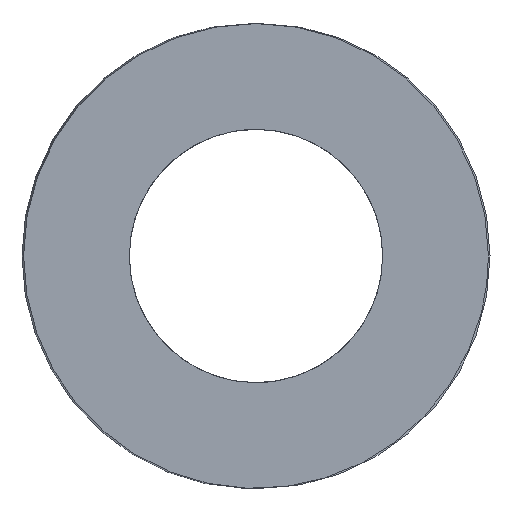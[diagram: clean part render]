
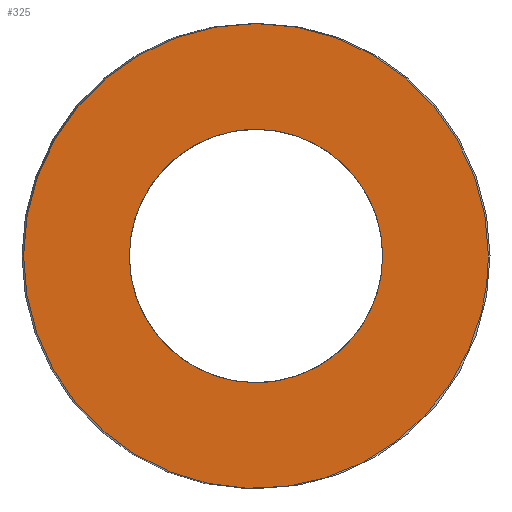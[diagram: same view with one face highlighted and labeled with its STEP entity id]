
A CAD part, left-side view. The second image highlights one B-rep face of the part: STEP entity #325.
In plain terms, the highlighted planar face has unit normal (-1, 0, 0).
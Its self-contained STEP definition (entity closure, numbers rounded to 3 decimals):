
#63=CARTESIAN_POINT('Vertex',(0.,24.4,0.)) ;
#89=CARTESIAN_POINT('Vertex',(0.,-24.4,0.)) ;
#93=CARTESIAN_POINT('Control Point',(0.,24.4,0.)) ;
#94=CARTESIAN_POINT('Control Point',(0.,24.4,-3.833)) ;
#95=CARTESIAN_POINT('Control Point',(0.,23.647,-7.665)) ;
#96=CARTESIAN_POINT('Control Point',(0.,22.142,-11.301)) ;
#97=CARTESIAN_POINT('Control Point',(0.,17.786,-17.786)) ;
#98=CARTESIAN_POINT('Control Point',(0.,11.301,-22.142)) ;
#99=CARTESIAN_POINT('Control Point',(0.,7.665,-23.647)) ;
#100=CARTESIAN_POINT('Control Point',(0.,0.,-25.153)) ;
#101=CARTESIAN_POINT('Control Point',(0.,-7.665,-23.647)) ;
#102=CARTESIAN_POINT('Control Point',(0.,-11.301,-22.142)) ;
#103=CARTESIAN_POINT('Control Point',(0.,-17.786,-17.786)) ;
#104=CARTESIAN_POINT('Control Point',(0.,-22.142,-11.301)) ;
#105=CARTESIAN_POINT('Control Point',(0.,-23.647,-7.665)) ;
#106=CARTESIAN_POINT('Control Point',(0.,-24.4,-3.833)) ;
#107=CARTESIAN_POINT('Control Point',(0.,-24.4,0.)) ;
#121=CARTESIAN_POINT('Axis2P3D Location',(0.,0.,0.)) ;
#256=CARTESIAN_POINT('Axis2P3D Location',(0.,12.2,0.)) ;
#266=CARTESIAN_POINT('Control Point',(0.,0.,-13.3)) ;
#267=CARTESIAN_POINT('Control Point',(0.,1.251,-13.3)) ;
#268=CARTESIAN_POINT('Control Point',(0.,2.501,-13.153)) ;
#269=CARTESIAN_POINT('Control Point',(0.,3.729,-12.859)) ;
#270=CARTESIAN_POINT('Control Point',(0.,6.092,-11.988)) ;
#271=CARTESIAN_POINT('Control Point',(0.,8.189,-10.593)) ;
#272=CARTESIAN_POINT('Control Point',(0.,9.15,-9.774)) ;
#273=CARTESIAN_POINT('Control Point',(0.,10.862,-7.927)) ;
#274=CARTESIAN_POINT('Control Point',(0.,12.099,-5.734)) ;
#275=CARTESIAN_POINT('Control Point',(0.,12.585,-4.569)) ;
#276=CARTESIAN_POINT('Control Point',(0.,13.275,-2.146)) ;
#277=CARTESIAN_POINT('Control Point',(0.,13.384,0.37)) ;
#278=CARTESIAN_POINT('Control Point',(0.,13.289,1.628)) ;
#279=CARTESIAN_POINT('Control Point',(0.,12.807,4.1)) ;
#280=CARTESIAN_POINT('Control Point',(0.,11.764,6.393)) ;
#281=CARTESIAN_POINT('Control Point',(0.,11.11,7.472)) ;
#282=CARTESIAN_POINT('Control Point',(0.,9.56,9.457)) ;
#283=CARTESIAN_POINT('Control Point',(0.,7.591,11.029)) ;
#284=CARTESIAN_POINT('Control Point',(0.,6.519,11.694)) ;
#285=CARTESIAN_POINT('Control Point',(0.,4.601,12.592)) ;
#286=CARTESIAN_POINT('Control Point',(0.,2.551,13.095)) ;
#287=CARTESIAN_POINT('Control Point',(0.,1.706,13.232)) ;
#288=CARTESIAN_POINT('Control Point',(0.,0.853,13.3)) ;
#289=CARTESIAN_POINT('Control Point',(0.,0.,13.3)) ;
#290=CARTESIAN_POINT('Vertex',(0.,0.,-13.3)) ;
#292=CARTESIAN_POINT('Vertex',(0.,0.,13.3)) ;
#296=CARTESIAN_POINT('Control Point',(0.,0.,13.3)) ;
#297=CARTESIAN_POINT('Control Point',(0.,-1.251,13.3)) ;
#298=CARTESIAN_POINT('Control Point',(0.,-2.501,13.153)) ;
#299=CARTESIAN_POINT('Control Point',(0.,-3.729,12.859)) ;
#300=CARTESIAN_POINT('Control Point',(0.,-6.092,11.988)) ;
#301=CARTESIAN_POINT('Control Point',(0.,-8.189,10.593)) ;
#302=CARTESIAN_POINT('Control Point',(0.,-9.15,9.774)) ;
#303=CARTESIAN_POINT('Control Point',(0.,-10.862,7.927)) ;
#304=CARTESIAN_POINT('Control Point',(0.,-12.099,5.734)) ;
#305=CARTESIAN_POINT('Control Point',(0.,-12.585,4.569)) ;
#306=CARTESIAN_POINT('Control Point',(0.,-13.275,2.146)) ;
#307=CARTESIAN_POINT('Control Point',(0.,-13.384,-0.37)) ;
#308=CARTESIAN_POINT('Control Point',(0.,-13.289,-1.628)) ;
#309=CARTESIAN_POINT('Control Point',(0.,-12.807,-4.1)) ;
#310=CARTESIAN_POINT('Control Point',(0.,-11.764,-6.393)) ;
#311=CARTESIAN_POINT('Control Point',(0.,-11.11,-7.472)) ;
#312=CARTESIAN_POINT('Control Point',(0.,-9.56,-9.457)) ;
#313=CARTESIAN_POINT('Control Point',(0.,-7.591,-11.029)) ;
#314=CARTESIAN_POINT('Control Point',(0.,-6.519,-11.694)) ;
#315=CARTESIAN_POINT('Control Point',(0.,-4.601,-12.592)) ;
#316=CARTESIAN_POINT('Control Point',(0.,-2.551,-13.095)) ;
#317=CARTESIAN_POINT('Control Point',(0.,-1.706,-13.232)) ;
#318=CARTESIAN_POINT('Control Point',(0.,-0.853,-13.3)) ;
#319=CARTESIAN_POINT('Control Point',(0.,0.,-13.3)) ;
#122=DIRECTION('Axis2P3D Direction',(1.,-0.,0.)) ;
#257=DIRECTION('Axis2P3D Direction',(-1.,0.,0.)) ;
#258=DIRECTION('Axis2P3D XDirection',(0.,1.,0.)) ;
#123=AXIS2_PLACEMENT_3D('Circle Axis2P3D',#121,#122,$) ;
#259=AXIS2_PLACEMENT_3D('Plane Axis2P3D',#256,#257,#258) ;
#262=ORIENTED_EDGE('',*,*,#108,.T.) ;
#263=ORIENTED_EDGE('',*,*,#125,.T.) ;
#322=ORIENTED_EDGE('',*,*,#294,.T.) ;
#323=ORIENTED_EDGE('',*,*,#320,.T.) ;
#324=FACE_BOUND('',#321,.T.) ;
#325=ADVANCED_FACE('392-B50-076',(#264,#324),#260,.T.) ;
#92=B_SPLINE_CURVE_WITH_KNOTS('',5,(#93,#94,#95,#96,#97,#98,#99,#100,#101,#102,#103,#104,#105,#106,#107),.UNSPECIFIED.,.F.,.U.,(6,3,3,3,6),(-38.327,-19.164,0.,19.164,38.327),.UNSPECIFIED.) ;
#265=B_SPLINE_CURVE_WITH_KNOTS('',5,(#266,#267,#268,#269,#270,#271,#272,#273,#274,#275,#276,#277,#278,#279,#280,#281,#282,#283,#284,#285,#286,#287,#288,#289),.UNSPECIFIED.,.F.,.U.,(6,3,3,3,3,3,3,6),(0.,8.843,17.686,26.53,35.373,44.216,53.059,59.09),.UNSPECIFIED.) ;
#295=B_SPLINE_CURVE_WITH_KNOTS('',5,(#296,#297,#298,#299,#300,#301,#302,#303,#304,#305,#306,#307,#308,#309,#310,#311,#312,#313,#314,#315,#316,#317,#318,#319),.UNSPECIFIED.,.F.,.U.,(6,3,3,3,3,3,3,6),(0.,8.843,17.686,26.53,35.373,44.216,53.059,59.09),.UNSPECIFIED.) ;
#124=CIRCLE('generated circle',#123,24.4) ;
#108=EDGE_CURVE('',#64,#90,#92,.T.) ;
#125=EDGE_CURVE('',#90,#64,#124,.F.) ;
#294=EDGE_CURVE('',#291,#293,#265,.T.) ;
#320=EDGE_CURVE('',#293,#291,#295,.T.) ;
#261=EDGE_LOOP('',(#262,#263)) ;
#321=EDGE_LOOP('',(#322,#323)) ;
#264=FACE_OUTER_BOUND('',#261,.T.) ;
#260=PLANE('Plane',#259) ;
#64=VERTEX_POINT('',#63) ;
#90=VERTEX_POINT('',#89) ;
#291=VERTEX_POINT('',#290) ;
#293=VERTEX_POINT('',#292) ;
